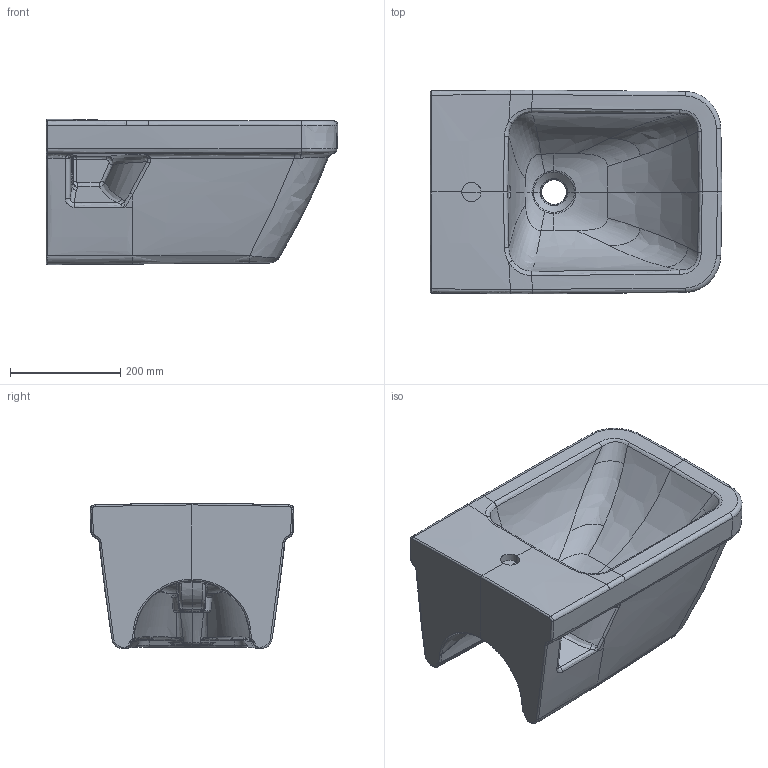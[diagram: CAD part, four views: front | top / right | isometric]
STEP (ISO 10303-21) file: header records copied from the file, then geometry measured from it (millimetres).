
FILE_DESCRIPTION(/* description */ (''),/* implementation_level */ '2;1');
FILE_NAME(/* name */ '448500_0A_Relaunch_WBD.stp',/* time_stamp */ '2019-02-22T08:01:25+01:00',/* author */ (''),/* organization */ (''),/* preprocessor_version */ 'ST-DEVELOPER v16',/* originating_system */ 'SIEMENS PLM Software NX 10.0',/* authorisation */ '');
FILE_SCHEMA (('AUTOMOTIVE_DESIGN { 1 0 10303 214 3 1 1 1 }'));
Products named in the file (1): rupp1328D95Fb9pb
Bounding box: 529.96 x 369.92 x 264.28 mm (x, y, z)
Volume: 23485943.9 mm3; surface area: 891034.2 mm2
Topology: 1 solids, 1 shells, 400 faces, 946 edges, 536 vertices
Faces by surface type: bspline 364, plane 14, cylinder 12, extrusion 6, sphere 4
Entity records: 51952 total; most frequent: CARTESIAN_POINT 45916, ORIENTED_EDGE 1868, EDGE_CURVE 934, B_SPLINE_CURVE_WITH_KNOTS 610, VERTEX_POINT 536, EDGE_LOOP 402, ADVANCED_FACE 400, FACE_OUTER_BOUND 398
